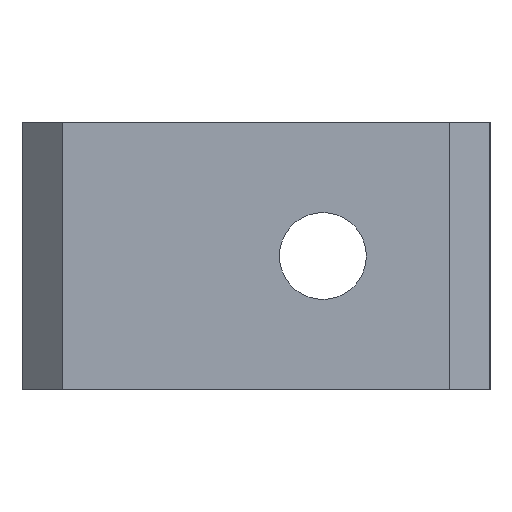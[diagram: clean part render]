
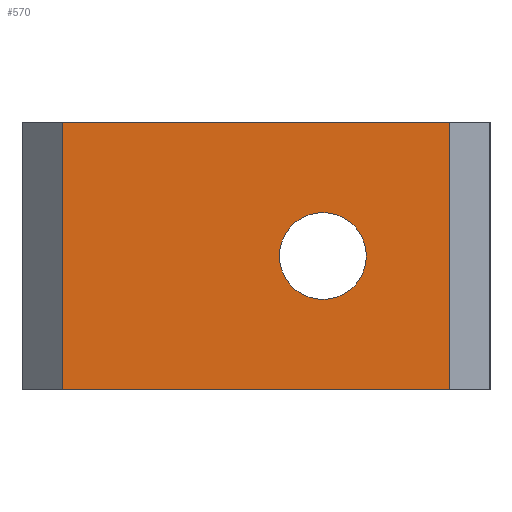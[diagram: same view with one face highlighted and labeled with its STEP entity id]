
A CAD part, left-side view. The second image highlights one B-rep face of the part: STEP entity #570.
In plain terms, the highlighted planar face has unit normal (-1, 0, 0).
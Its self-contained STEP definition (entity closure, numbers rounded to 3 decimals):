
#28 = EDGE_CURVE ( 'NONE', #597, #205, #87, .T. ) ;
#54 = DIRECTION ( 'NONE',  ( 0., 0., -1. ) ) ;
#58 = ORIENTED_EDGE ( 'NONE', *, *, #485, .T. ) ;
#66 = ORIENTED_EDGE ( 'NONE', *, *, #299, .T. ) ;
#67 = DIRECTION ( 'NONE',  ( 1., 0., 0. ) ) ;
#70 = CARTESIAN_POINT ( 'NONE',  ( -35., -22., 10. ) ) ;
#77 = CARTESIAN_POINT ( 'NONE',  ( -35., -12.5, -3.25 ) ) ;
#87 = LINE ( 'NONE', #407, #346 ) ;
#88 = AXIS2_PLACEMENT_3D ( 'NONE', #750, #67, #54 ) ;
#93 = DIRECTION ( 'NONE',  ( 1., 0., 0. ) ) ;
#104 = CARTESIAN_POINT ( 'NONE',  ( -35., -22., -10. ) ) ;
#133 = CARTESIAN_POINT ( 'NONE',  ( -35., 7., 10. ) ) ;
#152 = EDGE_LOOP ( 'NONE', ( #66, #366, #658, #161 ) ) ;
#159 = CARTESIAN_POINT ( 'NONE',  ( -35., -12.5, 3.25 ) ) ;
#161 = ORIENTED_EDGE ( 'NONE', *, *, #264, .T. ) ;
#205 = VERTEX_POINT ( 'NONE', #70 ) ;
#211 = VECTOR ( 'NONE', #699, 1000. ) ;
#226 = DIRECTION ( 'NONE',  ( 0., 0., -1. ) ) ;
#228 = VERTEX_POINT ( 'NONE', #77 ) ;
#234 = EDGE_CURVE ( 'NONE', #780, #205, #281, .T. ) ;
#261 = CARTESIAN_POINT ( 'NONE',  ( -35., -25., -10. ) ) ;
#264 = EDGE_CURVE ( 'NONE', #597, #464, #654, .T. ) ;
#281 = LINE ( 'NONE', #760, #211 ) ;
#296 = DIRECTION ( 'NONE',  ( 1., 0., 0. ) ) ;
#299 = EDGE_CURVE ( 'NONE', #464, #780, #618, .T. ) ;
#314 = DIRECTION ( 'NONE',  ( 0., -1., 0. ) ) ;
#323 = AXIS2_PLACEMENT_3D ( 'NONE', #489, #296, #744 ) ;
#346 = VECTOR ( 'NONE', #745, 1000. ) ;
#366 = ORIENTED_EDGE ( 'NONE', *, *, #234, .T. ) ;
#374 = DIRECTION ( 'NONE',  ( 0., 0., -1. ) ) ;
#379 = CARTESIAN_POINT ( 'NONE',  ( -35., 7., 10. ) ) ;
#407 = CARTESIAN_POINT ( 'NONE',  ( -35., -25., 10. ) ) ;
#464 = VERTEX_POINT ( 'NONE', #483 ) ;
#470 = VERTEX_POINT ( 'NONE', #159 ) ;
#478 = VECTOR ( 'NONE', #374, 1000. ) ;
#483 = CARTESIAN_POINT ( 'NONE',  ( -35., 7., -10. ) ) ;
#485 = EDGE_CURVE ( 'NONE', #228, #470, #609, .T. ) ;
#489 = CARTESIAN_POINT ( 'NONE',  ( -35., -25., 10. ) ) ;
#492 = AXIS2_PLACEMENT_3D ( 'NONE', #787, #93, #226 ) ;
#502 = VECTOR ( 'NONE', #314, 1000. ) ;
#570 = ADVANCED_FACE ( 'NONE', ( #726, #574 ), #676, .F. ) ;
#574 = FACE_OUTER_BOUND ( 'NONE', #152, .T. ) ;
#597 = VERTEX_POINT ( 'NONE', #133 ) ;
#609 = CIRCLE ( 'NONE', #88, 3.25 ) ;
#617 = CIRCLE ( 'NONE', #492, 3.25 ) ;
#618 = LINE ( 'NONE', #261, #502 ) ;
#654 = LINE ( 'NONE', #379, #478 ) ;
#658 = ORIENTED_EDGE ( 'NONE', *, *, #28, .F. ) ;
#668 = ORIENTED_EDGE ( 'NONE', *, *, #686, .T. ) ;
#676 = PLANE ( 'NONE',  #323 ) ;
#686 = EDGE_CURVE ( 'NONE', #470, #228, #617, .T. ) ;
#699 = DIRECTION ( 'NONE',  ( 0., 0., 1. ) ) ;
#726 = FACE_BOUND ( 'NONE', #771, .T. ) ;
#744 = DIRECTION ( 'NONE',  ( 0., 0., -1. ) ) ;
#745 = DIRECTION ( 'NONE',  ( 0., -1., 0. ) ) ;
#750 = CARTESIAN_POINT ( 'NONE',  ( -35., -12.5, 0. ) ) ;
#760 = CARTESIAN_POINT ( 'NONE',  ( -35., -22., 10. ) ) ;
#771 = EDGE_LOOP ( 'NONE', ( #58, #668 ) ) ;
#780 = VERTEX_POINT ( 'NONE', #104 ) ;
#787 = CARTESIAN_POINT ( 'NONE',  ( -35., -12.5, 0. ) ) ;
